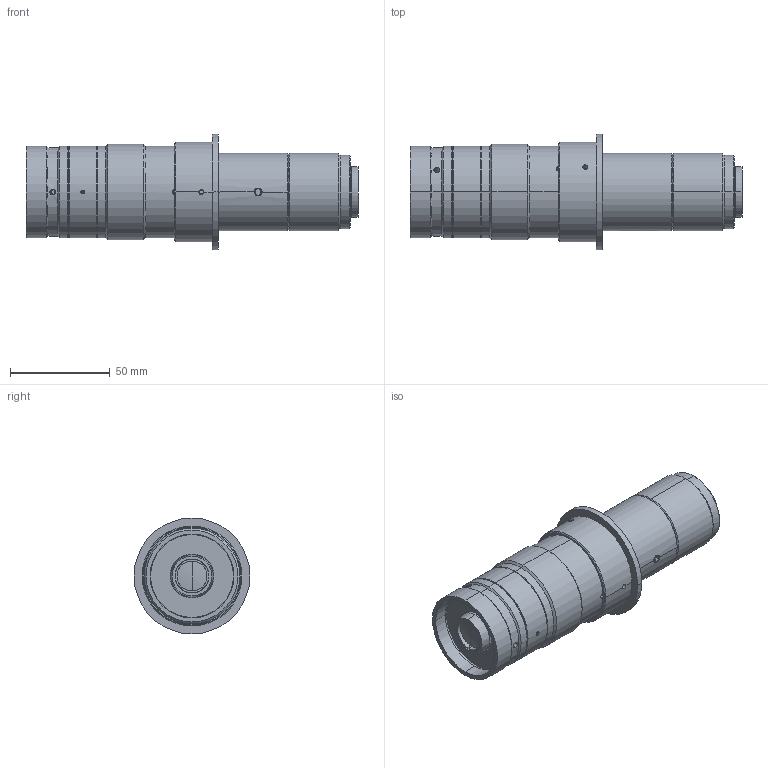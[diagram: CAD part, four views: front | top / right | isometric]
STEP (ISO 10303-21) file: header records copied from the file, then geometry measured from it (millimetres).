
FILE_DESCRIPTION((''),'2;1');
FILE_NAME('MZ45A00_ASM','2024-03-13T11:14:42',('fangzhiyong'),(''),'CREO PARAMETRIC BY PTC INC, 2020044','CREO PARAMETRIC BY PTC INC, 2020044','');
FILE_SCHEMA(('CONFIG_CONTROL_DESIGN'));
Length unit declared in the file: millimetre
Products named in the file (31): ADMI2072HVA5_1; ADMI2072HVA5_2; ADMI2072HVA5_3; ADMI2072HVA5_4; ADMI2072HVA5_5; ADMI2072HVA5_6; ADMI2072HVA5_7; ADMI2072HVA5_8; ADMI2072HVA5_10; ADMI2072HVA5_11; ADMI2072HVA5_12; ADMI2072HVA5_13; ADMI2072HVA5_15; ADMI2072HVA5_16; ADMI2072HVA5_17; ADMI2072HVA5_18; ADMI2072HVA5_19; ADMI2072HVA5_20; ADMI2072HVA5_21; ADMI2072HVA5_22; ADMI2072HVA5_23; ADMI2072HVA5_24; ADMI2072HVA5_25; ADMI2072HVA5_26; ADMI2072HVA5_27; ADMI2072HVA5_28; ADMI2072HVA5_29; ADMI2072HVA5_30; ADMI2072HVA5_31; ADMI2072HVA5_ASM; MZ45A00_ASM
Assembly tree (30 placements, depth 3):
  MZ45A00_ASM
    ADMI2072HVA5_ASM
      ADMI2072HVA5_1
      ADMI2072HVA5_2
      ADMI2072HVA5_3
      ADMI2072HVA5_4
      ADMI2072HVA5_5
      ADMI2072HVA5_6
      ADMI2072HVA5_7
      ADMI2072HVA5_8
      ADMI2072HVA5_10
      ADMI2072HVA5_11
      ADMI2072HVA5_12
      ADMI2072HVA5_13
      ADMI2072HVA5_15
      ADMI2072HVA5_16
      ADMI2072HVA5_17
      ADMI2072HVA5_18
      ADMI2072HVA5_19
      ADMI2072HVA5_20
      ADMI2072HVA5_21
      ADMI2072HVA5_22
      ADMI2072HVA5_23
      ADMI2072HVA5_24
      ADMI2072HVA5_25
      ADMI2072HVA5_26
      ADMI2072HVA5_27
      ADMI2072HVA5_28
      ADMI2072HVA5_29
      ADMI2072HVA5_30
      ADMI2072HVA5_31
Bounding box: 166.3 x 58 x 58 mm (x, y, z)
Volume: 154143.9 mm3; surface area: 93544.8 mm2
Topology: 29 solids, 30 shells, 509 faces, 1153 edges, 742 vertices
Faces by surface type: cylinder 216, plane 195, cone 84, bspline 8, sphere 6
Entity records: 16736 total; most frequent: CARTESIAN_POINT 4199, DIRECTION 2806, ORIENTED_EDGE 2274, AXIS2_PLACEMENT_3D 1139, EDGE_CURVE 1139, VERTEX_POINT 742, EDGE_LOOP 607, CIRCLE 546
